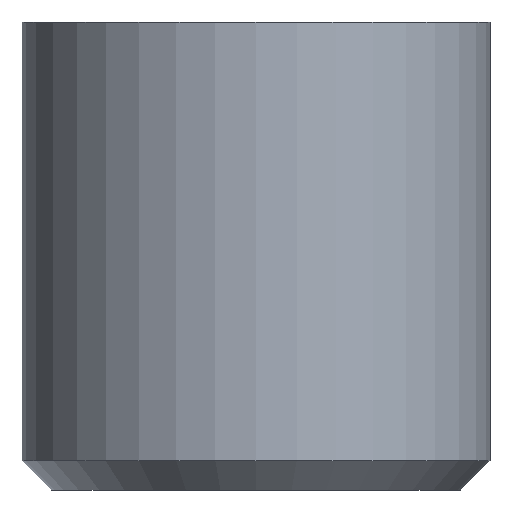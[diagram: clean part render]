
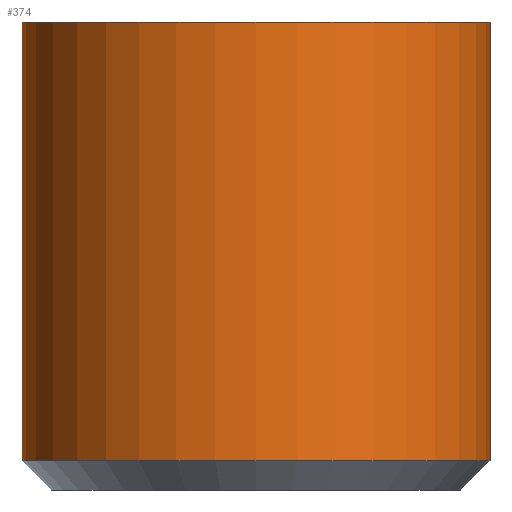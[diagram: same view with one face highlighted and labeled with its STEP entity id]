
A CAD part, left-side view. The second image highlights one B-rep face of the part: STEP entity #374.
In plain terms, the highlighted cylindrical face has radius 4 mm (diameter 8 mm), a partial arc.
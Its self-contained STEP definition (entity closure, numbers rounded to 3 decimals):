
#23=CYLINDRICAL_SURFACE('',#435,4.);
#57=FACE_OUTER_BOUND('',#82,.T.);
#82=EDGE_LOOP('',(#339,#340,#341,#342));
#86=CIRCLE('',#401,4.);
#101=CIRCLE('',#434,4.);
#112=LINE('',#582,#143);
#132=LINE('',#659,#163);
#143=VECTOR('',#467,10.);
#163=VECTOR('',#549,10.);
#169=VERTEX_POINT('',#565);
#171=VERTEX_POINT('',#570);
#173=VERTEX_POINT('',#580);
#193=VERTEX_POINT('',#655);
#202=EDGE_CURVE('',#171,#169,#86,.T.);
#208=EDGE_CURVE('',#171,#173,#112,.T.);
#243=EDGE_CURVE('',#173,#193,#101,.T.);
#244=EDGE_CURVE('',#193,#169,#132,.T.);
#339=ORIENTED_EDGE('',*,*,#202,.F.);
#340=ORIENTED_EDGE('',*,*,#208,.T.);
#341=ORIENTED_EDGE('',*,*,#243,.T.);
#342=ORIENTED_EDGE('',*,*,#244,.T.);
#374=ADVANCED_FACE('',(#57),#23,.T.);
#401=AXIS2_PLACEMENT_3D('',#572,#455,#456);
#434=AXIS2_PLACEMENT_3D('',#657,#545,#546);
#435=AXIS2_PLACEMENT_3D('',#658,#547,#548);
#455=DIRECTION('center_axis',(0.,0.,-1.));
#456=DIRECTION('ref_axis',(-0.707,0.707,0.));
#467=DIRECTION('',(0.,0.,1.));
#545=DIRECTION('center_axis',(0.,0.,-1.));
#546=DIRECTION('ref_axis',(-0.707,-0.707,0.));
#547=DIRECTION('center_axis',(0.,0.,-1.));
#548=DIRECTION('ref_axis',(-0.707,0.707,0.));
#549=DIRECTION('',(0.,0.,-1.));
#565=CARTESIAN_POINT('',(-1.,4.,-7.5));
#570=CARTESIAN_POINT('',(-1.,-4.,-7.5));
#572=CARTESIAN_POINT('Origin',(-1.,0.,-7.5));
#580=CARTESIAN_POINT('',(-1.,-4.,0.));
#582=CARTESIAN_POINT('',(-1.,-4.,0.));
#655=CARTESIAN_POINT('',(-1.,4.,0.));
#657=CARTESIAN_POINT('Origin',(-1.,0.,0.));
#658=CARTESIAN_POINT('Origin',(-1.,0.,0.));
#659=CARTESIAN_POINT('',(-1.,4.,0.));
